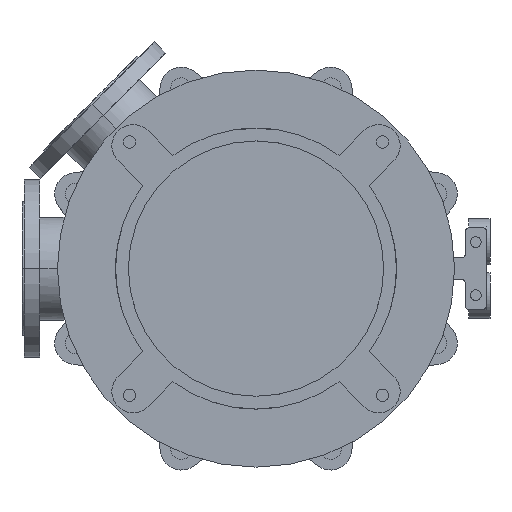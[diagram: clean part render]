
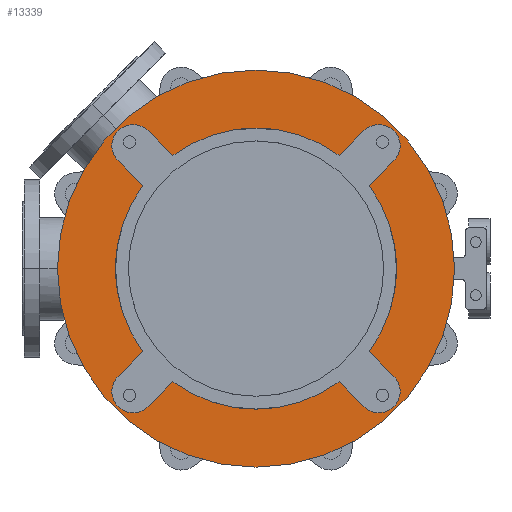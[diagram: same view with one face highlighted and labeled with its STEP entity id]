
A CAD part, front view. The second image highlights one B-rep face of the part: STEP entity #13339.
In plain terms, the highlighted planar face has unit normal (0, -1, 0).
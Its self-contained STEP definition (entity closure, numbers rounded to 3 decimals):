
#3017=CARTESIAN_POINT('',(0.,-25.,0.));
#3018=DIRECTION('',(0.,1.,0.));
#3019=DIRECTION('',(0.592,0.,-0.806));
#3020=AXIS2_PLACEMENT_3D('',#3017,#3018,#3019);
#3035=CARTESIAN_POINT('',(0.,-25.,0.));
#3036=DIRECTION('',(0.,1.,0.));
#3037=DIRECTION('',(0.806,0.,0.592));
#3038=AXIS2_PLACEMENT_3D('',#3035,#3036,#3037);
#3062=CARTESIAN_POINT('',(0.,-25.,0.));
#3063=DIRECTION('',(0.,1.,0.));
#3064=DIRECTION('',(-0.806,0.,-0.592));
#3065=AXIS2_PLACEMENT_3D('',#3062,#3063,#3064);
#3071=CARTESIAN_POINT('',(0.,-25.,0.));
#3072=DIRECTION('',(0.,1.,0.));
#3073=DIRECTION('',(-0.592,0.,0.806));
#3074=AXIS2_PLACEMENT_3D('',#3071,#3072,#3073);
#3249=CARTESIAN_POINT('',(0.,-25.,0.));
#3250=DIRECTION('',(0.,-1.,0.));
#3251=DIRECTION('',(-1.,0.,0.));
#3252=AXIS2_PLACEMENT_3D('',#3249,#3250,#3251);
#3254=CARTESIAN_POINT('',(0.,-25.,0.));
#3255=DIRECTION('',(0.,1.,0.));
#3256=DIRECTION('',(-1.,0.,0.));
#3257=AXIS2_PLACEMENT_3D('',#3254,#3255,#3256);
#3259=CARTESIAN_POINT('',(-173.241,-25.,173.241));
#3260=DIRECTION('',(0.,-1.,0.));
#3261=DIRECTION('',(0.707,0.,0.707));
#3262=AXIS2_PLACEMENT_3D('',#3259,#3260,#3261);
#3264=DIRECTION('',(0.707,0.,-0.707));
#3265=VECTOR('',#3264,49.286);
#3266=CARTESIAN_POINT('',(-194.454,-25.,152.028));
#3267=LINE('',#3266,#3265);
#3268=DIRECTION('',(-0.707,0.,-0.707));
#3269=VECTOR('',#3268,49.286);
#3270=CARTESIAN_POINT('',(-159.604,-25.,-117.178));
#3271=LINE('',#3270,#3269);
#3272=CARTESIAN_POINT('',(-173.241,-25.,-173.241));
#3273=DIRECTION('',(0.,-1.,0.));
#3274=DIRECTION('',(-0.707,0.,0.707));
#3275=AXIS2_PLACEMENT_3D('',#3272,#3273,#3274);
#3277=DIRECTION('',(0.707,0.,0.707));
#3278=VECTOR('',#3277,49.286);
#3279=CARTESIAN_POINT('',(-152.028,-25.,-194.454));
#3280=LINE('',#3279,#3278);
#3281=DIRECTION('',(0.707,0.,-0.707));
#3282=VECTOR('',#3281,49.286);
#3283=CARTESIAN_POINT('',(117.178,-25.,-159.604));
#3284=LINE('',#3283,#3282);
#3285=CARTESIAN_POINT('',(173.241,-25.,-173.241));
#3286=DIRECTION('',(0.,-1.,0.));
#3287=DIRECTION('',(-0.707,0.,-0.707));
#3288=AXIS2_PLACEMENT_3D('',#3285,#3286,#3287);
#3290=DIRECTION('',(-0.707,0.,0.707));
#3291=VECTOR('',#3290,49.286);
#3292=CARTESIAN_POINT('',(194.454,-25.,-152.028));
#3293=LINE('',#3292,#3291);
#3294=DIRECTION('',(0.707,0.,0.707));
#3295=VECTOR('',#3294,49.286);
#3296=CARTESIAN_POINT('',(159.604,-25.,117.178));
#3297=LINE('',#3296,#3295);
#3298=CARTESIAN_POINT('',(173.241,-25.,173.241));
#3299=DIRECTION('',(0.,-1.,0.));
#3300=DIRECTION('',(0.707,0.,-0.707));
#3301=AXIS2_PLACEMENT_3D('',#3298,#3299,#3300);
#3303=DIRECTION('',(-0.707,0.,-0.707));
#3304=VECTOR('',#3303,49.286);
#3305=CARTESIAN_POINT('',(152.028,-25.,194.454));
#3306=LINE('',#3305,#3304);
#3307=DIRECTION('',(-0.707,0.,0.707));
#3308=VECTOR('',#3307,49.286);
#3309=CARTESIAN_POINT('',(-117.178,-25.,159.604));
#3310=LINE('',#3309,#3308);
#8319=CARTESIAN_POINT('',(-280.,-25.,0.));
#8320=CARTESIAN_POINT('',(280.,-25.,0.));
#8321=VERTEX_POINT('',#8319);
#8322=VERTEX_POINT('',#8320);
#8343=CARTESIAN_POINT('',(-194.454,-25.,-152.028));
#8344=CARTESIAN_POINT('',(-152.028,-25.,-194.454));
#8345=VERTEX_POINT('',#8343);
#8346=VERTEX_POINT('',#8344);
#8347=CARTESIAN_POINT('',(-117.178,-25.,-159.604));
#8348=VERTEX_POINT('',#8347);
#8349=CARTESIAN_POINT('',(-159.604,-25.,-117.178));
#8350=VERTEX_POINT('',#8349);
#8359=CARTESIAN_POINT('',(152.028,-25.,-194.454));
#8360=CARTESIAN_POINT('',(194.454,-25.,-152.028));
#8361=VERTEX_POINT('',#8359);
#8362=VERTEX_POINT('',#8360);
#8363=CARTESIAN_POINT('',(159.604,-25.,-117.178));
#8364=VERTEX_POINT('',#8363);
#8365=CARTESIAN_POINT('',(117.178,-25.,-159.604));
#8366=VERTEX_POINT('',#8365);
#8375=CARTESIAN_POINT('',(194.454,-25.,152.028));
#8376=CARTESIAN_POINT('',(152.028,-25.,194.454));
#8377=VERTEX_POINT('',#8375);
#8378=VERTEX_POINT('',#8376);
#8379=CARTESIAN_POINT('',(117.178,-25.,159.604));
#8380=VERTEX_POINT('',#8379);
#8381=CARTESIAN_POINT('',(159.604,-25.,117.178));
#8382=VERTEX_POINT('',#8381);
#8391=CARTESIAN_POINT('',(-152.028,-25.,194.454));
#8392=CARTESIAN_POINT('',(-194.454,-25.,152.028));
#8393=VERTEX_POINT('',#8391);
#8394=VERTEX_POINT('',#8392);
#8395=CARTESIAN_POINT('',(-159.604,-25.,117.178));
#8396=VERTEX_POINT('',#8395);
#8397=CARTESIAN_POINT('',(-117.178,-25.,159.604));
#8398=VERTEX_POINT('',#8397);
#13299=CARTESIAN_POINT('',(0.,-25.,0.));
#13300=DIRECTION('',(0.,-1.,0.));
#13301=DIRECTION('',(-1.,0.,0.));
#13302=AXIS2_PLACEMENT_3D('',#13299,#13300,#13301);
#13303=PLANE('',#13302);
#13305=ORIENTED_EDGE('',*,*,#13304,.F.);
#13307=ORIENTED_EDGE('',*,*,#13306,.T.);
#13308=EDGE_LOOP('',(#13305,#13307));
#13309=FACE_OUTER_BOUND('',#13308,.F.);
#13311=ORIENTED_EDGE('',*,*,#13310,.T.);
#13313=ORIENTED_EDGE('',*,*,#13312,.T.);
#13314=ORIENTED_EDGE('',*,*,#13252,.F.);
#13316=ORIENTED_EDGE('',*,*,#13315,.T.);
#13318=ORIENTED_EDGE('',*,*,#13317,.T.);
#13320=ORIENTED_EDGE('',*,*,#13319,.T.);
#13321=ORIENTED_EDGE('',*,*,#13205,.F.);
#13322=ORIENTED_EDGE('',*,*,#13289,.T.);
#13324=ORIENTED_EDGE('',*,*,#13323,.T.);
#13326=ORIENTED_EDGE('',*,*,#13325,.T.);
#13327=ORIENTED_EDGE('',*,*,#13226,.F.);
#13329=ORIENTED_EDGE('',*,*,#13328,.T.);
#13331=ORIENTED_EDGE('',*,*,#13330,.T.);
#13333=ORIENTED_EDGE('',*,*,#13332,.T.);
#13334=ORIENTED_EDGE('',*,*,#13270,.F.);
#13336=ORIENTED_EDGE('',*,*,#13335,.T.);
#13337=EDGE_LOOP('',(#13311,#13313,#13314,#13316,#13318,#13320,#13321,#13322,
#13324,#13326,#13327,#13329,#13331,#13333,#13334,#13336));
#13338=FACE_BOUND('',#13337,.F.);
#13339=ADVANCED_FACE('',(#13309,#13338),#13303,.T.);
#3021=CIRCLE('',#3020,198.);
#3039=CIRCLE('',#3038,198.);
#3066=CIRCLE('',#3065,198.);
#3075=CIRCLE('',#3074,198.);
#3253=CIRCLE('',#3252,280.);
#3258=CIRCLE('',#3257,280.);
#3263=CIRCLE('',#3262,30.);
#3276=CIRCLE('',#3275,30.);
#3289=CIRCLE('',#3288,30.);
#3302=CIRCLE('',#3301,30.);
#13205=EDGE_CURVE('',#8366,#8348,#3021,.T.);
#13226=EDGE_CURVE('',#8382,#8364,#3039,.T.);
#13252=EDGE_CURVE('',#8350,#8396,#3066,.T.);
#13270=EDGE_CURVE('',#8398,#8380,#3075,.T.);
#13289=EDGE_CURVE('',#8366,#8361,#3284,.T.);
#13304=EDGE_CURVE('',#8321,#8322,#3253,.T.);
#13306=EDGE_CURVE('',#8321,#8322,#3258,.T.);
#13310=EDGE_CURVE('',#8393,#8394,#3263,.T.);
#13312=EDGE_CURVE('',#8394,#8396,#3267,.T.);
#13315=EDGE_CURVE('',#8350,#8345,#3271,.T.);
#13317=EDGE_CURVE('',#8345,#8346,#3276,.T.);
#13319=EDGE_CURVE('',#8346,#8348,#3280,.T.);
#13323=EDGE_CURVE('',#8361,#8362,#3289,.T.);
#13325=EDGE_CURVE('',#8362,#8364,#3293,.T.);
#13328=EDGE_CURVE('',#8382,#8377,#3297,.T.);
#13330=EDGE_CURVE('',#8377,#8378,#3302,.T.);
#13332=EDGE_CURVE('',#8378,#8380,#3306,.T.);
#13335=EDGE_CURVE('',#8398,#8393,#3310,.T.);
